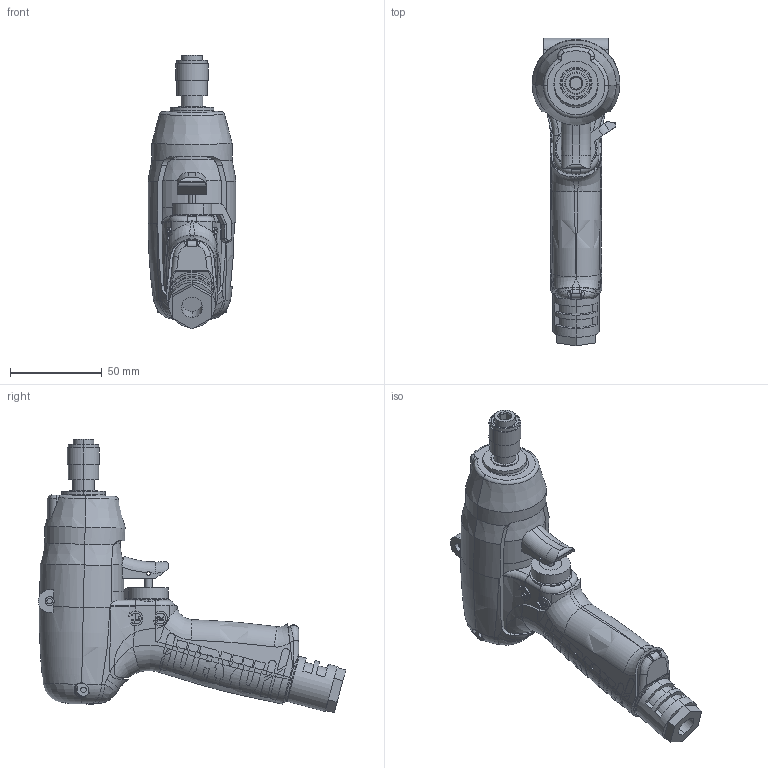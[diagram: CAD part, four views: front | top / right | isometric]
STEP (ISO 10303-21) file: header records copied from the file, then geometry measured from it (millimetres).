
FILE_DESCRIPTION (( 'STEP AP203' ), '1' );
FILE_NAME ('UL50D.STEP', '2006-02-08T04:32:07', ( '' ), ( '' ), 'SwSTEP 2.0', 'SolidWorks 2004073', '' );
FILE_SCHEMA (( 'CONFIG_CONTROL_DESIGN' ));
Length unit declared in the file: millimetre
Products named in the file (10): 1438403_UL50D_蹬怮椔; 1434393_UL50D_蹬怮椔; UL50D; 1433502_UL50D_蹬怮椔; 0113511_UL50D_蹬怮椔; 9810020_UL50D_蹬怮椔; 4802128_UL50D_蹬怮椔; 1478422_UL50D_蹬怮椔; 1471072_UL50D_蹬怮椔; 1430253_UL50D_蹬怮椔
Assembly tree (9 placements, depth 2):
  UL50D
    1433502_UL50D_蹬怮椔
    1438403_UL50D_蹬怮椔
    1434393_UL50D_蹬怮椔
    1478422_UL50D_蹬怮椔
    9810020_UL50D_蹬怮椔
    4802128_UL50D_蹬怮椔
    0113511_UL50D_蹬怮椔
    1430253_UL50D_蹬怮椔
    1471072_UL50D_蹬怮椔
Bounding box: 48 x 168.02 x 149.55 mm (x, y, z)
Volume: 281293.8 mm3; surface area: 86732.5 mm2
Topology: 9 solids, 9 shells, 1297 faces, 3603 edges, 2344 vertices
Faces by surface type: plane 782, cylinder 264, bspline 161, torus 66, cone 16, sphere 8
Entity records: 102717 total; most frequent: CARTESIAN_POINT 71538, ORIENTED_EDGE 7188, DIRECTION 4976, EDGE_CURVE 3594, VERTEX_POINT 2341, AXIS2_PLACEMENT_3D 1718, VECTOR 1540, LINE 1540
